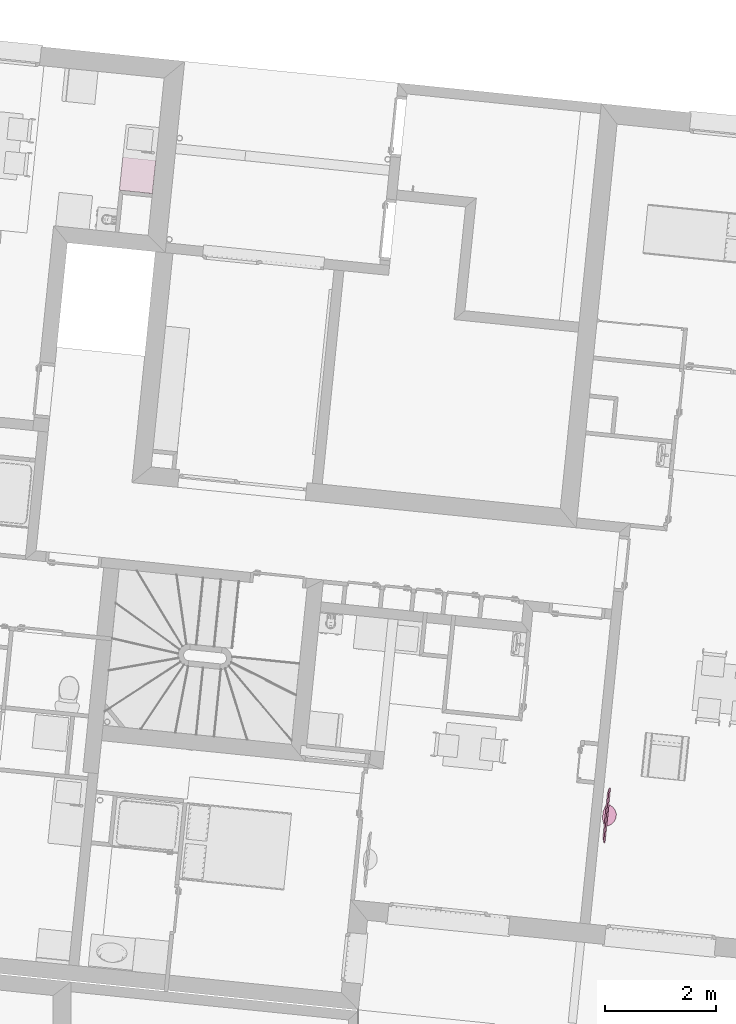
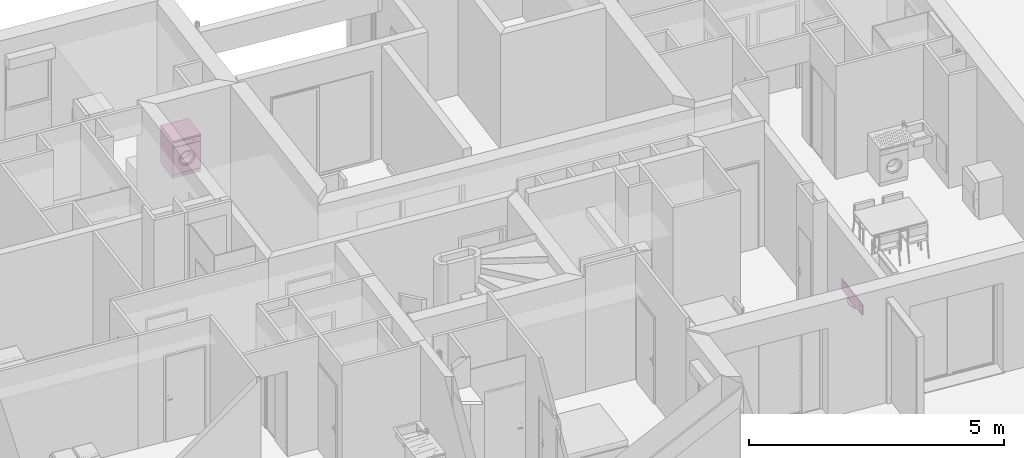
# One storey, part 141 of 171: 2 furnishings.
"""IFC2X3 building model written with IfcOpenShell, lengths in millimetres."""

from ifc_helpers import new_model, entity, si_unit, converted_unit, derived_unit, money_unit, direction, frame, origin_with_axes, place, context, subcontext, project, spatial, open_shell, faceted_brep, surface_model, source, transform, mapped, type_object, element, save


model = new_model("IFC2X3")

# Units and contexts
model_context = context("Model", 3, precision=0.01, world=origin_with_axes(), true_north=direction((0.0, 1.0)))
body_context = subcontext(model_context, "Body", "Model", "MODEL_VIEW")
ifc_project = project(units=[si_unit("LENGTHUNIT", "METRE", prefix="MILLI"), si_unit("AREAUNIT", "SQUARE_METRE"), si_unit("VOLUMEUNIT", "CUBIC_METRE"), converted_unit("PLANEANGLEUNIT", "DEGREE", entity("IfcPlaneAngleMeasure", 0.0174532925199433), si_unit("PLANEANGLEUNIT", "RADIAN"), dimensions=[0, 0, 0, 0, 0, 0, 0]), money_unit("USD"), converted_unit("TIMEUNIT", "Year", entity("IfcTimeMeasure", 31557600.0), si_unit("TIMEUNIT", "SECOND"), dimensions=[0, 0, 1, 0, 0, 0, 0]), si_unit("MASSUNIT", "GRAM", prefix="KILO"), si_unit("THERMODYNAMICTEMPERATUREUNIT", "DEGREE_CELSIUS"), si_unit("LUMINOUSINTENSITYUNIT", "LUMEN"), si_unit("ENERGYUNIT", "JOULE", prefix="MEGA"), derived_unit("THERMALCONDUCTANCEUNIT", [(si_unit("POWERUNIT", "WATT"), 1), (si_unit("LENGTHUNIT", "METRE"), -1), (si_unit("THERMODYNAMICTEMPERATUREUNIT", "KELVIN"), -1)]), derived_unit("SPECIFICHEATCAPACITYUNIT", [(si_unit("ENERGYUNIT", "JOULE"), 1), (si_unit("MASSUNIT", "GRAM", prefix="KILO"), -1), (si_unit("THERMODYNAMICTEMPERATUREUNIT", "KELVIN"), -1)]), derived_unit("MASSDENSITYUNIT", [(si_unit("MASSUNIT", "GRAM", prefix="KILO"), 1), (si_unit("VOLUMEUNIT", "CUBIC_METRE"), -1)])], contexts=[model_context])

# Site, building, storey
site_placement = place(None, origin_with_axes())
site = spatial("IfcSite", under=ifc_project, at=site_placement, Name="Site", CompositionType="ELEMENT")
building_placement = place(site_placement, origin_with_axes())
building = spatial("IfcBuilding", under=site, at=building_placement, Name="Bâtiment", CompositionType="ELEMENT")
storey_placement = place(building_placement, frame((0.0, 0.0, 3000.0), z_axis=(0.0, 0.0, 1.0), x_axis=(1.0, 0.0, 0.0)))
storey = spatial("IfcBuildingStorey", under=building, at=storey_placement, Name="rdc", CompositionType="ELEMENT", Elevation=3000.0)

# Furnishings
furnishing_element_type_1 = type_object("IfcFurnishingElementType", Name="Machine à laver")
shared_shape_1 = source(origin_with_axes(), body_context, "Body", "SurfaceModel", [
    faceted_brep([(0.0, 20.0, 100.0), (0.0, 0.0, 100.0), (-600.0, 0.0, 100.0), (-600.0, 20.0, 100.0), (0.0, 20.00000000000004, 740.0), (0.0, 0.0, 740.0), (-600.0, 0.0, 740.0), (-471.4285714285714, 0.0, 420.0000000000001), (-465.5872845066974, 0.0, 464.3689791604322), (-448.4614977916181, 0.0, 505.7142857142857), (-421.2183053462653, 0.0, 541.2183053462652), (-385.7142857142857, 0.0, 568.4614977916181), (-344.3689791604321, 0.0, 585.5872845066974), (-300.0000000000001, 0.0, 591.4285714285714), (-255.6310208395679, 0.0, 585.5872845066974), (-214.2857142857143, 0.0, 568.4614977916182), (-178.7816946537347, 0.0, 541.2183053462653), (-151.5385022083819, 0.0, 505.7142857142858), (-134.4127154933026, 0.0, 464.3689791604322), (-128.5714285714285, 0.0, 420.0000000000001), (-134.4127154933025, 0.0, 375.6310208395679), (-151.5385022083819, 0.0, 334.2857142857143), (-178.7816946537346, 0.0, 298.7816946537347), (-214.2857142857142, 0.0, 271.5385022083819), (-255.6310208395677, 0.0, 254.4127154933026), (-299.9999999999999, 0.0, 248.5714285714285), (-344.368979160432, 0.0, 254.4127154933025), (-385.7142857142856, 0.0, 271.5385022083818), (-421.2183053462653, 0.0, 298.7816946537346), (-448.4614977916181, 0.0, 334.2857142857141), (-465.5872845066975, 0.0, 375.6310208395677), (-600.0, 20.00000000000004, 740.0), (-471.4285714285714, 20.00000000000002, 420.0000000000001), (-465.5872845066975, 20.00000000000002, 375.6310208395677), (-448.4614977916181, 20.00000000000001, 334.2857142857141), (-421.2183053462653, 20.00000000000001, 298.7816946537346), (-385.7142857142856, 20.00000000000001, 271.5385022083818), (-344.368979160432, 20.00000000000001, 254.4127154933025), (-299.9999999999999, 20.00000000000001, 248.5714285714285), (-255.6310208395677, 20.00000000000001, 254.4127154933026), (-214.2857142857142, 20.00000000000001, 271.5385022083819), (-178.7816946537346, 20.00000000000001, 298.7816946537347), (-151.5385022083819, 20.00000000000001, 334.2857142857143), (-134.4127154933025, 20.00000000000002, 375.6310208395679), (-128.5714285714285, 20.00000000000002, 420.0000000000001), (-134.4127154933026, 20.00000000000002, 464.3689791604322), (-151.5385022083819, 20.00000000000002, 505.7142857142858), (-178.7816946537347, 20.00000000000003, 541.2183053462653), (-214.2857142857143, 20.00000000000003, 568.4614977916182), (-255.6310208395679, 20.00000000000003, 585.5872845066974), (-300.0000000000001, 20.00000000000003, 591.4285714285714), (-344.3689791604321, 20.00000000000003, 585.5872845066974), (-385.7142857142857, 20.00000000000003, 568.4614977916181), (-421.2183053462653, 20.00000000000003, 541.2183053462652), (-448.4614977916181, 20.00000000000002, 505.7142857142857), (-465.5872845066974, 20.00000000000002, 464.3689791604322)], [[[0, 1, 2, 3]], [[4, 5, 1, 0]], [[1, 5, 6, 2], [7, 8, 9, 10, 11, 12, 13, 14, 15, 16, 17, 18, 19, 20, 21, 22, 23, 24, 25, 26, 27, 28, 29, 30]], [[3, 2, 6, 31]], [[0, 3, 31, 4], [32, 33, 34, 35, 36, 37, 38, 39, 40, 41, 42, 43, 44, 45, 46, 47, 48, 49, 50, 51, 52, 53, 54, 55]], [[31, 6, 5, 4]], [[55, 8, 7, 32]], [[54, 9, 8, 55]], [[53, 10, 9, 54]], [[52, 11, 10, 53]], [[51, 12, 11, 52]], [[50, 13, 12, 51]], [[49, 14, 13, 50]], [[48, 15, 14, 49]], [[47, 16, 15, 48]], [[46, 17, 16, 47]], [[45, 18, 17, 46]], [[44, 19, 18, 45]], [[43, 20, 19, 44]], [[42, 21, 20, 43]], [[41, 22, 21, 42]], [[40, 23, 22, 41]], [[39, 24, 23, 40]], [[38, 25, 24, 39]], [[37, 26, 25, 38]], [[36, 27, 26, 37]], [[35, 28, 27, 36]], [[34, 29, 28, 35]], [[33, 30, 29, 34]], [[32, 7, 30, 33]]]),
    faceted_brep([(-471.4285714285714, 40.00000000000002, 420.0000000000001), (-471.4285714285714, 20.00000000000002, 420.0000000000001), (-465.5872845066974, 20.00000000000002, 464.3689791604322), (-465.5872845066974, 40.00000000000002, 464.3689791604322), (-465.5872845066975, 40.00000000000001, 375.6310208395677), (-465.5872845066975, 20.00000000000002, 375.6310208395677), (-448.4614977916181, 20.00000000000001, 334.2857142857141), (-421.2183053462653, 20.00000000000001, 298.7816946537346), (-385.7142857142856, 20.00000000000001, 271.5385022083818), (-344.368979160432, 20.00000000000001, 254.4127154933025), (-299.9999999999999, 20.00000000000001, 248.5714285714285), (-255.6310208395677, 20.00000000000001, 254.4127154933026), (-214.2857142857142, 20.00000000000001, 271.5385022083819), (-178.7816946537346, 20.00000000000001, 298.7816946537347), (-151.5385022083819, 20.00000000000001, 334.2857142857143), (-134.4127154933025, 20.00000000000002, 375.6310208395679), (-128.5714285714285, 20.00000000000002, 420.0000000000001), (-134.4127154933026, 20.00000000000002, 464.3689791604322), (-151.5385022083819, 20.00000000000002, 505.7142857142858), (-178.7816946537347, 20.00000000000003, 541.2183053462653), (-214.2857142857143, 20.00000000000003, 568.4614977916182), (-255.6310208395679, 20.00000000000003, 585.5872845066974), (-300.0000000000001, 20.00000000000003, 591.4285714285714), (-344.3689791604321, 20.00000000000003, 585.5872845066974), (-385.7142857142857, 20.00000000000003, 568.4614977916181), (-421.2183053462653, 20.00000000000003, 541.2183053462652), (-448.4614977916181, 20.00000000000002, 505.7142857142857), (-437.1428571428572, 20.00000000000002, 420.0000000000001), (-432.469827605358, 20.00000000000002, 455.4951833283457), (-418.7691982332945, 20.00000000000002, 488.5714285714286), (-396.9746442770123, 20.00000000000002, 516.9746442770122), (-368.5714285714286, 20.00000000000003, 538.7691982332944), (-335.4951833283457, 20.00000000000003, 552.469827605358), (-300.0000000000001, 20.00000000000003, 557.1428571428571), (-264.5048166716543, 20.00000000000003, 552.469827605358), (-231.4285714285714, 20.00000000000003, 538.7691982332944), (-203.0253557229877, 20.00000000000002, 516.9746442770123), (-181.2308017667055, 20.00000000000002, 488.5714285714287), (-167.530172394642, 20.00000000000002, 455.4951833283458), (-162.8571428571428, 20.00000000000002, 420.0000000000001), (-167.530172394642, 20.00000000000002, 384.5048166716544), (-181.2308017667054, 20.00000000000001, 351.4285714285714), (-203.0253557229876, 20.00000000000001, 323.0253557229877), (-231.4285714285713, 20.00000000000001, 301.2308017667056), (-264.5048166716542, 20.00000000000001, 287.530172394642), (-299.9999999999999, 20.00000000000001, 282.8571428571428), (-335.4951833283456, 20.00000000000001, 287.530172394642), (-368.5714285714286, 20.00000000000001, 301.2308017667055), (-396.9746442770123, 20.00000000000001, 323.0253557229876), (-418.7691982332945, 20.00000000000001, 351.4285714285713), (-432.469827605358, 20.00000000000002, 384.5048166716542), (-448.4614977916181, 40.00000000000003, 505.7142857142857), (-421.2183053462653, 40.00000000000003, 541.2183053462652), (-385.7142857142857, 40.00000000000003, 568.4614977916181), (-344.3689791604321, 40.00000000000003, 585.5872845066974), (-300.0000000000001, 40.00000000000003, 591.4285714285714), (-255.6310208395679, 40.00000000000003, 585.5872845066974), (-214.2857142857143, 40.00000000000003, 568.4614977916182), (-178.7816946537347, 40.00000000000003, 541.2183053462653), (-151.5385022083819, 40.00000000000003, 505.7142857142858), (-134.4127154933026, 40.00000000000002, 464.3689791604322), (-128.5714285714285, 40.00000000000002, 420.0000000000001), (-134.4127154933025, 40.00000000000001, 375.6310208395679), (-151.5385022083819, 40.00000000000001, 334.2857142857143), (-178.7816946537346, 40.00000000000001, 298.7816946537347), (-214.2857142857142, 40.00000000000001, 271.5385022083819), (-255.6310208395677, 40.00000000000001, 254.4127154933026), (-299.9999999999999, 40.00000000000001, 248.5714285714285), (-344.368979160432, 40.00000000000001, 254.4127154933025), (-385.7142857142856, 40.00000000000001, 271.5385022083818), (-421.2183053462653, 40.00000000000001, 298.7816946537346), (-448.4614977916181, 40.00000000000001, 334.2857142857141), (-437.1428571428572, 40.00000000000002, 420.0000000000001), (-432.469827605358, 40.00000000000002, 384.5048166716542), (-418.7691982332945, 40.00000000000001, 351.4285714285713), (-396.9746442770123, 40.00000000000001, 323.0253557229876), (-368.5714285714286, 40.00000000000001, 301.2308017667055), (-335.4951833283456, 40.00000000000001, 287.530172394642), (-299.9999999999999, 40.00000000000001, 282.8571428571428), (-264.5048166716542, 40.00000000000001, 287.530172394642), (-231.4285714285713, 40.00000000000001, 301.2308017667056), (-203.0253557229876, 40.00000000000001, 323.0253557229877), (-181.2308017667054, 40.00000000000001, 351.4285714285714), (-167.530172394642, 40.00000000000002, 384.5048166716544), (-162.8571428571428, 40.00000000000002, 420.0000000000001), (-167.530172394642, 40.00000000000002, 455.4951833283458), (-181.2308017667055, 40.00000000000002, 488.5714285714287), (-203.0253557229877, 40.00000000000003, 516.9746442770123), (-231.4285714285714, 40.00000000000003, 538.7691982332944), (-264.5048166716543, 40.00000000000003, 552.469827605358), (-300.0000000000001, 40.00000000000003, 557.1428571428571), (-335.4951833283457, 40.00000000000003, 552.469827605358), (-368.5714285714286, 40.00000000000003, 538.7691982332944), (-396.9746442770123, 40.00000000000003, 516.9746442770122), (-418.7691982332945, 40.00000000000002, 488.5714285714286), (-432.469827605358, 40.00000000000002, 455.4951833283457)], [[[0, 1, 2, 3]], [[4, 5, 1, 0]], [[1, 5, 6, 7, 8, 9, 10, 11, 12, 13, 14, 15, 16, 17, 18, 19, 20, 21, 22, 23, 24, 25, 26, 2], [27, 28, 29, 30, 31, 32, 33, 34, 35, 36, 37, 38, 39, 40, 41, 42, 43, 44, 45, 46, 47, 48, 49, 50]], [[3, 2, 26, 51]], [[0, 3, 51, 52, 53, 54, 55, 56, 57, 58, 59, 60, 61, 62, 63, 64, 65, 66, 67, 68, 69, 70, 71, 4], [72, 73, 74, 75, 76, 77, 78, 79, 80, 81, 82, 83, 84, 85, 86, 87, 88, 89, 90, 91, 92, 93, 94, 95]], [[71, 6, 5, 4]], [[70, 7, 6, 71]], [[69, 8, 7, 70]], [[68, 9, 8, 69]], [[67, 10, 9, 68]], [[66, 11, 10, 67]], [[65, 12, 11, 66]], [[64, 13, 12, 65]], [[63, 14, 13, 64]], [[62, 15, 14, 63]], [[61, 16, 15, 62]], [[60, 17, 16, 61]], [[59, 18, 17, 60]], [[58, 19, 18, 59]], [[57, 20, 19, 58]], [[56, 21, 20, 57]], [[55, 22, 21, 56]], [[54, 23, 22, 55]], [[53, 24, 23, 54]], [[52, 25, 24, 53]], [[51, 26, 25, 52]], [[95, 28, 27, 72]], [[94, 29, 28, 95]], [[93, 30, 29, 94]], [[92, 31, 30, 93]], [[91, 32, 31, 92]], [[90, 33, 32, 91]], [[89, 34, 33, 90]], [[88, 35, 34, 89]], [[87, 36, 35, 88]], [[86, 37, 36, 87]], [[85, 38, 37, 86]], [[84, 39, 38, 85]], [[83, 40, 39, 84]], [[82, 41, 40, 83]], [[81, 42, 41, 82]], [[80, 43, 42, 81]], [[79, 44, 43, 80]], [[78, 45, 44, 79]], [[77, 46, 45, 78]], [[76, 47, 46, 77]], [[75, 48, 47, 76]], [[74, 49, 48, 75]], [[73, 50, 49, 74]], [[72, 27, 50, 73]]]),
    surface_model("IfcShellBasedSurfaceModel", [(-264.5048166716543, 39.99999999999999, 552.469827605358), (-273.3786125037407, 140.0, 519.3523707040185), (-300.0, 140.0, 522.8571428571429), (-300.0, 39.99999999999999, 557.1428571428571), (-231.4285714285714, 39.99999999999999, 538.7691982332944), (-248.5714285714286, 140.0, 509.0768986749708), (-227.2690167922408, 140.0, 492.7309832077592), (-210.9231013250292, 140.0, 471.4285714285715), (-200.6476292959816, 140.0, 446.6213874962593), (-197.1428571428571, 140.0, 420.0000000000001), (-200.6476292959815, 140.0, 393.3786125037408), (-210.9231013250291, 140.0, 368.5714285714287), (-227.2690167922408, 140.0, 347.2690167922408), (-248.5714285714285, 140.0, 330.9231013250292), (-273.3786125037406, 140.0, 320.6476292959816), (-299.9999999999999, 140.0, 317.1428571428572), (-326.6213874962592, 140.0, 320.6476292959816), (-351.4285714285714, 140.0, 330.9231013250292), (-372.7309832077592, 140.0, 347.2690167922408), (-389.0768986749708, 140.0, 368.5714285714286), (-399.3523707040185, 140.0, 393.3786125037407), (-402.8571428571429, 140.0, 420.0), (-399.3523707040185, 140.0, 446.6213874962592), (-389.0768986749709, 140.0, 471.4285714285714), (-372.7309832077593, 140.0, 492.7309832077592), (-351.4285714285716, 140.0, 509.0768986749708), (-326.6213874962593, 140.0, 519.3523707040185), (-335.4951833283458, 39.99999999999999, 552.469827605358), (-203.0253557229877, 39.99999999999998, 516.9746442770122), (-181.2308017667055, 39.99999999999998, 488.5714285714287), (-167.5301723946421, 39.99999999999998, 455.4951833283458), (-162.8571428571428, 39.99999999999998, 420.0000000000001), (-167.530172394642, 39.99999999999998, 384.5048166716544), (-181.2308017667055, 39.99999999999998, 351.4285714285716), (-203.0253557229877, 39.99999999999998, 323.0253557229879), (-231.4285714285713, 39.99999999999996, 301.2308017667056), (-264.5048166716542, 39.99999999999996, 287.5301723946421), (-299.9999999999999, 39.99999999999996, 282.8571428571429), (-335.4951833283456, 39.99999999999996, 287.5301723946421), (-368.5714285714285, 39.99999999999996, 301.2308017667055), (-396.9746442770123, 39.99999999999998, 323.0253557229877), (-418.7691982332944, 39.99999999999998, 351.4285714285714), (-432.469827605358, 39.99999999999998, 384.5048166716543), (-437.1428571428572, 39.99999999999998, 419.9999999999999), (-432.469827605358, 39.99999999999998, 455.4951833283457), (-418.7691982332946, 39.99999999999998, 488.5714285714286), (-396.9746442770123, 39.99999999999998, 516.9746442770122), (-368.5714285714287, 39.99999999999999, 538.7691982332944)], [open_shell([[[0, 1, 2, 3]], [[4, 5, 1, 0]], [[2, 1, 5, 6, 7, 8, 9, 10, 11, 12, 13, 14, 15, 16, 17, 18, 19, 20, 21, 22, 23, 24, 25, 26]], [[3, 2, 26, 27]], [[28, 6, 5, 4]], [[29, 7, 6, 28]], [[30, 8, 7, 29]], [[31, 9, 8, 30]], [[32, 10, 9, 31]], [[33, 11, 10, 32]], [[34, 12, 11, 33]], [[35, 13, 12, 34]], [[36, 14, 13, 35]], [[37, 15, 14, 36]], [[38, 16, 15, 37]], [[39, 17, 16, 38]], [[40, 18, 17, 39]], [[41, 19, 18, 40]], [[42, 20, 19, 41]], [[43, 21, 20, 42]], [[44, 22, 21, 43]], [[45, 23, 22, 44]], [[46, 24, 23, 45]], [[47, 25, 24, 46]], [[27, 26, 25, 47]]])]),
    surface_model("IfcShellBasedSurfaceModel", [(0.0, 20.0, 100.0), (0.0, 600.0, 99.99999999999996), (0.0, 600.0, 870.0), (0.0, 20.00000000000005, 870.0)], [open_shell([[[0, 1, 2, 3]]])]),
    surface_model("IfcShellBasedSurfaceModel", [(-600.0, 19.99999999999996, 100.0), (-600.0, 599.9999999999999, 99.99999999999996), (-600.0, 599.9999999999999, 870.0), (-600.0, 20.00000000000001, 870.0)], [open_shell([[[0, 1, 2, 3]]])]),
    surface_model("IfcShellBasedSurfaceModel", [(0.0, 600.0, 100.0), (-600.0, 600.0, 100.0), (-600.0, 600.0, 870.0), (0.0, 600.0, 870.0)], [open_shell([[[0, 1, 2, 3]]])]),
    faceted_brep([(0.0, 20.0, 0.0), (0.0, 20.0, 100.0), (-600.0, 20.0, 100.0), (-600.0, 20.0, 0.0), (0.0, 600.0, 0.0), (0.0, 600.0, 100.0), (-600.0, 600.0, 100.0), (-600.0, 600.0, 0.0)], [[[0, 1, 2, 3]], [[4, 5, 1, 0]], [[1, 5, 6, 2]], [[3, 2, 6, 7]], [[0, 3, 7, 4]], [[7, 6, 5, 4]]]),
    faceted_brep([(0.0, 20.0, 750.0), (0.0, 0.0, 750.0), (-600.0, 0.0, 750.0), (-600.0, 20.0, 750.0), (0.0, 20.00000000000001, 860.0), (0.0, 0.0, 860.0), (-600.0, 0.0, 860.0), (-600.0, 20.00000000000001, 860.0)], [[[0, 1, 2, 3]], [[4, 5, 1, 0]], [[1, 5, 6, 2]], [[3, 2, 6, 7]], [[0, 3, 7, 4]], [[7, 6, 5, 4]]]),
    surface_model("IfcShellBasedSurfaceModel", [(0.0, 20.0, 740.0), (-600.0, 20.0, 740.0), (-600.0, 20.00000000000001, 870.0), (0.0, 20.00000000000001, 870.0)], [open_shell([[[0, 1, 2, 3]]])]),
    faceted_brep([(0.0, 0.0, 870.0), (0.0, 0.0, 900.0), (-600.0, 0.0, 900.0), (-600.0, 0.0, 870.0), (0.0, 600.0, 870.0), (0.0, 600.0, 900.0), (-600.0, 600.0, 900.0), (-600.0, 600.0, 870.0)], [[[0, 1, 2, 3]], [[4, 5, 1, 0]], [[1, 5, 6, 2]], [[3, 2, 6, 7]], [[0, 3, 7, 4]], [[7, 6, 5, 4]]]),
    faceted_brep([(-68.66025403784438, 0.0, 804.9999999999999), (-69.99999999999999, 0.0, 809.9999999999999), (-68.66025403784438, 0.0, 815.0), (-65.0, 0.0, 818.6602540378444), (-60.0, 0.0, 820.0), (-55.0, 0.0, 818.6602540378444), (-51.33974596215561, 0.0, 815.0), (-49.99999999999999, 0.0, 809.9999999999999), (-51.33974596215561, 0.0, 804.9999999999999), (-54.99999999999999, 0.0, 801.3397459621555), (-59.99999999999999, 0.0, 799.9999999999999), (-64.99999999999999, 0.0, 801.3397459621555), (-68.66025403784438, -10.0, 804.9999999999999), (-69.99999999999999, -10.0, 809.9999999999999), (-68.66025403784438, -10.0, 815.0), (-65.0, -10.0, 818.6602540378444), (-60.0, -10.0, 820.0), (-55.0, -10.0, 818.6602540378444), (-51.33974596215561, -10.0, 815.0), (-49.99999999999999, -10.0, 809.9999999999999), (-51.33974596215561, -10.0, 804.9999999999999), (-54.99999999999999, -10.0, 801.3397459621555), (-59.99999999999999, -10.0, 799.9999999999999), (-64.99999999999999, -10.0, 801.3397459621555)], [[[0, 1, 2, 3, 4, 5, 6, 7, 8, 9, 10, 11]], [[0, 12, 13, 1]], [[1, 13, 14, 2]], [[2, 14, 15, 3]], [[3, 15, 16, 4]], [[4, 16, 17, 5]], [[5, 17, 18, 6]], [[6, 18, 19, 7]], [[7, 19, 20, 8]], [[8, 20, 21, 9]], [[9, 21, 22, 10]], [[10, 22, 23, 11]], [[11, 23, 12, 0]], [[12, 23, 22, 21, 20, 19, 18, 17, 16, 15, 14, 13]]]),
    faceted_brep([(-108.6602540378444, 0.0, 804.9999999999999), (-110.0, 0.0, 809.9999999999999), (-108.6602540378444, 0.0, 815.0), (-105.0, 0.0, 818.6602540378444), (-100.0, 0.0, 820.0), (-95.0, 0.0, 818.6602540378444), (-91.33974596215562, 0.0, 815.0), (-90.00000000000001, 0.0, 809.9999999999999), (-91.33974596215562, 0.0, 804.9999999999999), (-95.0, 0.0, 801.3397459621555), (-99.99999999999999, 0.0, 799.9999999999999), (-105.0, 0.0, 801.3397459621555), (-108.6602540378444, -10.0, 804.9999999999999), (-110.0, -10.0, 809.9999999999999), (-108.6602540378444, -10.0, 815.0), (-105.0, -10.0, 818.6602540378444), (-100.0, -10.0, 820.0), (-95.0, -10.0, 818.6602540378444), (-91.33974596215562, -10.0, 815.0), (-90.00000000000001, -10.0, 809.9999999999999), (-91.33974596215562, -10.0, 804.9999999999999), (-95.0, -10.0, 801.3397459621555), (-99.99999999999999, -10.0, 799.9999999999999), (-105.0, -10.0, 801.3397459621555)], [[[0, 1, 2, 3, 4, 5, 6, 7, 8, 9, 10, 11]], [[0, 12, 13, 1]], [[1, 13, 14, 2]], [[2, 14, 15, 3]], [[3, 15, 16, 4]], [[4, 16, 17, 5]], [[5, 17, 18, 6]], [[6, 18, 19, 7]], [[7, 19, 20, 8]], [[8, 20, 21, 9]], [[9, 21, 22, 10]], [[10, 22, 23, 11]], [[11, 23, 12, 0]], [[12, 23, 22, 21, 20, 19, 18, 17, 16, 15, 14, 13]]]),
    faceted_brep([(-148.6602540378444, 0.0, 804.9999999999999), (-150.0, 0.0, 809.9999999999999), (-148.6602540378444, 0.0, 815.0), (-145.0, 0.0, 818.6602540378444), (-140.0, 0.0, 820.0), (-135.0, 0.0, 818.6602540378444), (-131.3397459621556, 0.0, 815.0), (-130.0, 0.0, 809.9999999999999), (-131.3397459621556, 0.0, 804.9999999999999), (-135.0, 0.0, 801.3397459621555), (-140.0, 0.0, 799.9999999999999), (-145.0, 0.0, 801.3397459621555), (-148.6602540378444, -10.0, 804.9999999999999), (-150.0, -10.0, 809.9999999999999), (-148.6602540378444, -10.0, 815.0), (-145.0, -10.0, 818.6602540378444), (-140.0, -10.0, 820.0), (-135.0, -10.0, 818.6602540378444), (-131.3397459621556, -10.0, 815.0), (-130.0, -10.0, 809.9999999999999), (-131.3397459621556, -10.0, 804.9999999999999), (-135.0, -10.0, 801.3397459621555), (-140.0, -10.0, 799.9999999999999), (-145.0, -10.0, 801.3397459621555)], [[[0, 1, 2, 3, 4, 5, 6, 7, 8, 9, 10, 11]], [[0, 12, 13, 1]], [[1, 13, 14, 2]], [[2, 14, 15, 3]], [[3, 15, 16, 4]], [[4, 16, 17, 5]], [[5, 17, 18, 6]], [[6, 18, 19, 7]], [[7, 19, 20, 8]], [[8, 20, 21, 9]], [[9, 21, 22, 10]], [[10, 22, 23, 11]], [[11, 23, 12, 0]], [[12, 23, 22, 21, 20, 19, 18, 17, 16, 15, 14, 13]]]),
    faceted_brep([(-188.6602540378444, 0.0, 804.9999999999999), (-190.0, 0.0, 809.9999999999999), (-188.6602540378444, 0.0, 815.0), (-185.0, 0.0, 818.6602540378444), (-180.0, 0.0, 820.0), (-175.0, 0.0, 818.6602540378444), (-171.3397459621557, 0.0, 815.0), (-170.0, 0.0, 809.9999999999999), (-171.3397459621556, 0.0, 804.9999999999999), (-175.0, 0.0, 801.3397459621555), (-180.0, 0.0, 799.9999999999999), (-185.0, 0.0, 801.3397459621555), (-188.6602540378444, -10.0, 804.9999999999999), (-190.0, -10.0, 809.9999999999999), (-188.6602540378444, -10.0, 815.0), (-185.0, -10.0, 818.6602540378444), (-180.0, -10.0, 820.0), (-175.0, -10.0, 818.6602540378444), (-171.3397459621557, -10.0, 815.0), (-170.0, -10.0, 809.9999999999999), (-171.3397459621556, -10.0, 804.9999999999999), (-175.0, -10.0, 801.3397459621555), (-180.0, -10.0, 799.9999999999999), (-185.0, -10.0, 801.3397459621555)], [[[0, 1, 2, 3, 4, 5, 6, 7, 8, 9, 10, 11]], [[0, 12, 13, 1]], [[1, 13, 14, 2]], [[2, 14, 15, 3]], [[3, 15, 16, 4]], [[4, 16, 17, 5]], [[5, 17, 18, 6]], [[6, 18, 19, 7]], [[7, 19, 20, 8]], [[8, 20, 21, 9]], [[9, 21, 22, 10]], [[10, 22, 23, 11]], [[11, 23, 12, 0]], [[12, 23, 22, 21, 20, 19, 18, 17, 16, 15, 14, 13]]]),
])
furnishing_1_placement = place(storey_placement, frame((2225927.725697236, -607239.7071720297, 0.0), z_axis=(0.0, 0.0, 1.0), x_axis=(0.9945641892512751, -0.1041252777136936, 0.0)))
element("IfcFurnishingElement", 1, at=furnishing_1_placement, inside=storey, type_object=furnishing_element_type_1, Name="Obj.-019", context=body_context, shape_type="MappedRepresentation", body=[
    mapped(shared_shape_1, transform((0.0, 0.0, 0.0))),
])
furnishing_element_type_2 = type_object("IfcFurnishingElementType", Name="Ecran TV plasma")
shared_shape_2 = source(origin_with_axes(), body_context, "Body", "Brep", [
    faceted_brep([(-300.0, 45.45454545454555, 0.0), (-300.0, 45.45454545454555, 12.72727272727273), (-311.9952377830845, -22.76722074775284, 12.72727272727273), (-311.9952377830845, -22.76722074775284, 0.0), (-300.362869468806, 45.66379498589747, 0.0), (-300.362869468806, 45.66379498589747, 12.72727272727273), (-430.8157560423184, 93.01588086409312, 12.72727272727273), (-569.5967719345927, 92.94321528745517, 12.72727272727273), (-700.0000000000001, 45.45454545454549, 12.72727272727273), (-699.9923846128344, 43.70923835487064, 12.72727272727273), (-687.402263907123, -24.40525330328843, 12.72727272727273), (-652.3327960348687, -84.13989598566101, 12.72727272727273), (-598.9906470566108, -128.3293772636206, 12.72727272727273), (-533.7743345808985, -151.6730637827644, 12.72727272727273), (-464.5067103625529, -151.3708248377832, 12.72727272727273), (-399.4965906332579, -127.4589147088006, 12.72727272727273), (-346.5420938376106, -82.80562387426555, 12.72727272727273), (-346.5420938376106, -82.80562387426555, 0.0), (-399.4965906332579, -127.4589147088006, 0.0), (-464.5067103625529, -151.3708248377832, 0.0), (-533.7743345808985, -151.6730637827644, 0.0), (-598.9906470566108, -128.3293772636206, 0.0), (-652.3327960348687, -84.13989598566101, 0.0), (-687.402263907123, -24.40525330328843, 0.0), (-699.9923846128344, 43.70923835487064, 0.0), (-700.0000000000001, 45.45454545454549, 0.0), (-569.5967719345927, 92.94321528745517, 0.0), (-430.8157560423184, 93.01588086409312, 0.0)], [[[0, 1, 2, 3]], [[4, 5, 1, 0]], [[1, 5, 6, 7, 8, 9, 10, 11, 12, 13, 14, 15, 16, 2]], [[3, 2, 16, 17]], [[0, 3, 17, 18, 19, 20, 21, 22, 23, 24, 25, 26, 27, 4]], [[27, 6, 5, 4]], [[26, 7, 6, 27]], [[25, 8, 7, 26]], [[24, 9, 8, 25]], [[23, 10, 9, 24]], [[22, 11, 10, 23]], [[21, 12, 11, 22]], [[20, 13, 12, 21]], [[19, 14, 13, 20]], [[18, 15, 14, 19]], [[17, 16, 15, 18]]]),
    faceted_brep([(-666.6666666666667, 2.500000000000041, 12.72727272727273), (-666.6666666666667, 2.500000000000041, 25.45454545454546), (-666.6666666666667, 22.50000000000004, 25.45454545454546), (-666.6666666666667, 22.50000000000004, 12.72727272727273), (-333.3333333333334, 2.500000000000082, 12.72727272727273), (-333.3333333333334, 2.500000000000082, 25.45454545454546), (-333.3333333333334, 22.50000000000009, 25.45454545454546), (-333.3333333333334, 22.50000000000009, 12.72727272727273)], [[[0, 1, 2, 3]], [[4, 5, 1, 0]], [[1, 5, 6, 2]], [[3, 2, 6, 7]], [[0, 3, 7, 4]], [[7, 6, 5, 4]]]),
    faceted_brep([(-62.5, -0.2539999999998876, 65.45454545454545), (-62.5, 0.0, 65.45454545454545), (-62.5, 0.0, 254.5454545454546), (-62.5, -0.2539999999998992, 254.5454545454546), (-937.5, -0.2539999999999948, 65.45454545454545), (-937.5, 0.0, 65.45454545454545), (-937.5, 0.0, 254.5454545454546), (-937.5, -0.2540000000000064, 254.5454545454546)], [[[0, 1, 2, 3]], [[4, 5, 1, 0]], [[1, 5, 6, 2]], [[3, 2, 6, 7]], [[0, 3, 7, 4]], [[7, 6, 5, 4]]]),
    faceted_brep([(-937.5, 0.0, 25.45454545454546), (-62.5, 0.0, 25.45454545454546), (0.0, 0.0, 31.81818181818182), (0.0, 0.0, 280.0), (-1000.0, 0.0, 280.0), (-1000.0, 0.0, 31.81818181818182), (-937.5000003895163, 25.00000000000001, 25.4545450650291), (-62.50000038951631, 25.00000000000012, 25.4545450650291), (-3.895163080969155e-07, 25.00000000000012, 31.81818187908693), (-3.895163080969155e-07, 25.00000000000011, 279.9999999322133), (-1000.000000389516, 24.99999999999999, 279.9999999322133), (-1000.000000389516, 25.0, 31.81818187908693), (-934.156616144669, 42.64268163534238, 91.29792930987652), (-906.6987288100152, 50.00000037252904, 118.7558166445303), (-93.30127196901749, 50.00000037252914, 118.7558166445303), (-65.84338463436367, 42.64268163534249, 91.29792930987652), (-93.30127196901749, 50.00000037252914, 186.6987283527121), (-906.6987288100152, 50.00000037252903, 186.6987283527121)], [[[0, 1, 2, 3, 4, 5]], [[0, 6, 7, 1]], [[1, 7, 8, 2]], [[2, 8, 9, 3]], [[3, 9, 10, 4]], [[4, 10, 11, 5]], [[5, 11, 6, 0]], [[6, 12, 13, 14, 15, 7]], [[7, 15, 8]], [[8, 15, 14, 16, 9]], [[9, 16, 17, 10]], [[10, 17, 13, 12, 11]], [[11, 12, 6]], [[17, 16, 14, 13]]]),
    faceted_brep([(-500.0, -0.7937499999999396, 39.45454545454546), (-500.0, 0.0, 39.45454545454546), (-490.0, 0.0, 46.45454545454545), (-490.0, -0.7937499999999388, 46.45454545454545), (-510.0, -0.7937499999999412, 46.45454545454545), (-510.0, 0.0, 46.45454545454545), (-600.0, 0.0, 52.18181818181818), (-400.0, 0.0, 52.18181818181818), (-400.0, -0.7937499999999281, 52.18181818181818), (-600.0, -0.7937499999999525, 52.18181818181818)], [[[0, 1, 2, 3]], [[4, 5, 1, 0]], [[1, 5, 6, 7, 2]], [[3, 2, 7, 8]], [[0, 3, 8, 9, 4]], [[9, 6, 5, 4]], [[8, 7, 6, 9]]]),
    faceted_brep([(-866.6666666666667, 10.0, 280.0), (-866.6666666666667, 10.0, 281.5875), (-933.3333333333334, 9.999999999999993, 281.5875), (-933.3333333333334, 9.999999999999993, 280.0), (-866.6666666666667, 16.25, 280.0), (-866.6666666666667, 16.25, 281.5875), (-933.3333333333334, 16.24999999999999, 281.5875), (-933.3333333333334, 16.24999999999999, 280.0)], [[[0, 1, 2, 3]], [[0, 4, 5, 1]], [[1, 5, 6, 2]], [[2, 6, 7, 3]], [[3, 7, 4, 0]], [[7, 6, 5, 4]]]),
    faceted_brep([(-795.2380952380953, 10.00000000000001, 280.0), (-795.2380952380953, 10.00000000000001, 281.5875), (-861.9047619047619, 10.0, 281.5875), (-861.9047619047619, 10.0, 280.0), (-795.2380952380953, 16.25000000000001, 280.0), (-795.2380952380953, 16.25000000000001, 281.5875), (-861.9047619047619, 16.25, 281.5875), (-861.9047619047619, 16.25, 280.0)], [[[0, 1, 2, 3]], [[0, 4, 5, 1]], [[1, 5, 6, 2]], [[2, 6, 7, 3]], [[3, 7, 4, 0]], [[7, 6, 5, 4]]]),
    faceted_brep([(-757.1428571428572, 10.00000000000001, 280.0), (-757.1428571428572, 10.00000000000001, 281.5875), (-790.4761904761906, 10.00000000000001, 281.5875), (-790.4761904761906, 10.00000000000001, 280.0), (-757.1428571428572, 16.25000000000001, 280.0), (-757.1428571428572, 16.25000000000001, 281.5875), (-790.4761904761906, 16.25000000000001, 281.5875), (-790.4761904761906, 16.25000000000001, 280.0)], [[[0, 1, 2, 3]], [[0, 4, 5, 1]], [[1, 5, 6, 2]], [[2, 6, 7, 3]], [[3, 7, 4, 0]], [[7, 6, 5, 4]]]),
])
furnishing_2_placement = place(storey_placement, frame((2234221.617153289, -617994.8913262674, 800.0000000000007), z_axis=(0.0, 0.0, 1.0), x_axis=(0.1016629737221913, 0.9948188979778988, 0.0)))
element("IfcFurnishingElement", 2, at=furnishing_2_placement, inside=storey, type_object=furnishing_element_type_2, Name="Obj.-034", context=body_context, shape_type="MappedRepresentation", body=[
    mapped(shared_shape_2, transform((0.0, 0.0, 0.0))),
])

save(model, "model.ifc")
